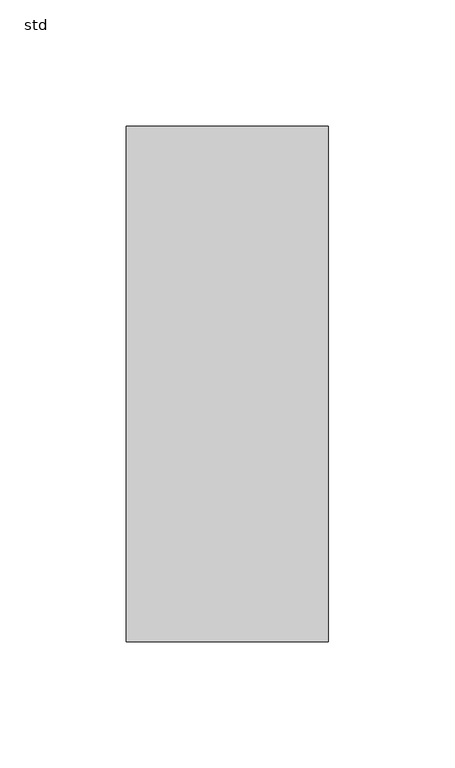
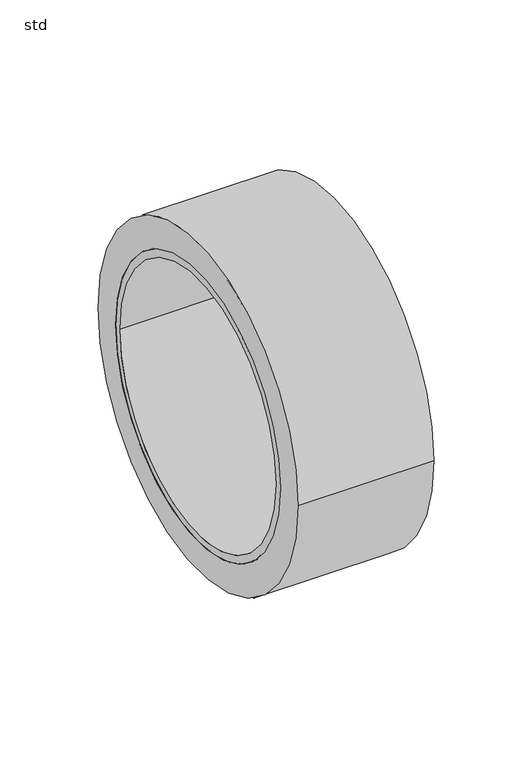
"""IFC4 building model written with IfcOpenShell, lengths in millimetres: pipe fitting geometry, PIF_ST_UN_GM-X compound pipe multi-reducer (multiport)_ACO : std."""

from ifc_helpers import new_model, si_unit, point, frame, origin, origin_2d, place, context, project, spatial, polyline, circle_curve, trimmed, segment, composite_curve, outline, extrude, source, transform, mapped, element, save
from ifc_brep_helpers import plane_surface, cylinder_surface, revolved_surface, advanced_brep


def std_e7416d80(model_context):
    return source(origin(), model_context, "Body", "SolidModel", [
        extrude(outline(composite_curve([segment(trimmed(circle_curve(origin_2d(), 102.0), [point((-102.0, 0.0))], [point((102.0, 0.0))], False, "CARTESIAN"), True, "CONTINUOUS"), segment(trimmed(circle_curve(origin_2d(), 102.0), [point((102.0, 0.0))], [point((-102.0, 0.0))], False, "CARTESIAN"), True, "CONTINUOUS")], self_intersect=False), holes=[composite_curve([segment(trimmed(circle_curve(origin_2d(), 84.0), [point((-84.0, 0.0))], [point((84.0, 0.0))], True, "CARTESIAN"), True, "CONTINUOUS"), segment(trimmed(circle_curve(origin_2d(), 84.0), [point((84.0, 0.0))], [point((-84.0, 0.0))], True, "CARTESIAN"), True, "CONTINUOUS")], self_intersect=False)]), frame((390.0, 0.0, 0.0), z_axis=(1.0, 0.0, 0.0), x_axis=(0.0, 1.0, 0.0)), (0.0, 0.0, 1.0), 80.0),
        advanced_brep(
        [(470.0, -84.0, 0.0), (470.0, 84.0, 0.0), (470.0, 79.5, 0.0), (470.0, -79.5, 0.0), (390.0, -84.0, 0.0), (390.0, 84.0, 0.0), (390.0, -79.5, 0.0), (390.0, 79.5, 0.0), (435.0, -84.0, 0.0), (435.0, 84.0, 0.0), (399.5, 84.0, 0.0), (399.5, -84.0, 0.0), (435.0, -90.5, 0.0), (435.0, 90.5, 0.0), (399.5, -90.5, 0.0), (399.5, 90.5, 0.0)],
        [
            (0, 1, circle_curve(frame((470.0, 0.0, 0.0), z_axis=(1.0, 0.0, 0.0), x_axis=(0.0, 1.0, 0.0)), 84.0)),
            (1, 0, circle_curve(frame((470.0, 0.0, 0.0), z_axis=(1.0, 0.0, 0.0), x_axis=(0.0, 1.0, 0.0)), 84.0)),
            (2, 3, circle_curve(frame((470.0, 0.0, 0.0), z_axis=(-1.0, 0.0, 0.0), x_axis=(0.0, 1.0, 0.0)), 79.5)),
            (3, 2, circle_curve(frame((470.0, 0.0, 0.0), z_axis=(-1.0, 0.0, 0.0), x_axis=(0.0, 1.0, 0.0)), 79.5)),
            (4, 5, circle_curve(frame((390.0, 0.0, 0.0), z_axis=(-1.0, 0.0, 0.0), x_axis=(0.0, 1.0, 0.0)), 84.0)),
            (5, 4, circle_curve(frame((390.0, 0.0, 0.0), z_axis=(-1.0, 0.0, 0.0), x_axis=(0.0, 1.0, 0.0)), 84.0)),
            (6, 7, circle_curve(frame((390.0, 0.0, 0.0), z_axis=(1.0, 0.0, 0.0), x_axis=(0.0, 1.0, 0.0)), 79.5)),
            (7, 6, circle_curve(frame((390.0, 0.0, 0.0), z_axis=(1.0, 0.0, 0.0), x_axis=(0.0, 1.0, 0.0)), 79.5)),
            (0, 8),
            (8, 9, circle_curve(frame((435.0, 0.0, 0.0), z_axis=(1.0, 0.0, 0.0), x_axis=(0.0, 1.0, 0.0)), 84.0)),
            (9, 1),
            (5, 10),
            (10, 11, circle_curve(frame((399.5, 0.0, 0.0), z_axis=(-1.0, 0.0, 0.0), x_axis=(0.0, 1.0, 0.0)), 84.0)),
            (11, 4),
            (9, 8, circle_curve(frame((435.0, 0.0, 0.0), z_axis=(1.0, 0.0, 0.0), x_axis=(0.0, 1.0, 0.0)), 84.0)),
            (11, 10, circle_curve(frame((399.5, 0.0, 0.0), z_axis=(-1.0, 0.0, 0.0), x_axis=(0.0, 1.0, 0.0)), 84.0)),
            (2, 7),
            (6, 3),
            (12, 13, circle_curve(frame((435.0, 0.0, 0.0), z_axis=(1.0, 0.0, 0.0), x_axis=(0.0, 1.0, 0.0)), 90.5)),
            (13, 12, circle_curve(frame((435.0, 0.0, 0.0), z_axis=(1.0, 0.0, 0.0), x_axis=(0.0, 1.0, 0.0)), 90.5)),
            (14, 15, circle_curve(frame((399.5, 0.0, 0.0), z_axis=(-1.0, 0.0, 0.0), x_axis=(0.0, 1.0, 0.0)), 90.5)),
            (15, 14, circle_curve(frame((399.5, 0.0, 0.0), z_axis=(-1.0, 0.0, 0.0), x_axis=(0.0, 1.0, 0.0)), 90.5)),
            (12, 14),
            (15, 13),
        ],
        [
            plane_surface(frame((470.0, 84.0, 0.0), z_axis=(1.0, 0.0, 0.0), x_axis=(0.0, 0.0, 1.0))),
            plane_surface(frame((390.0, 84.0, 0.0), z_axis=(-1.0, 0.0, 0.0), x_axis=(0.0, 0.0, -1.0))),
            cylinder_surface(frame((390.0, 0.0, 0.0), z_axis=(1.0, 0.0, 0.0), x_axis=(0.0, 1.0, 0.0)), 84.0),
            revolved_surface(polyline([(470.0, 79.5, 0.0), (390.0, 79.5, 0.0)]), (390.0, 0.0, 0.0), (1.0, 0.0, 0.0)),
            plane_surface(frame((435.0, 90.5, 0.0), z_axis=(1.0, 0.0, 0.0), x_axis=(0.0, 0.0, 1.0))),
            plane_surface(frame((399.5, 90.5, 0.0), z_axis=(-1.0, 0.0, 0.0), x_axis=(0.0, 0.0, -1.0))),
            cylinder_surface(frame((399.5, 0.0, 0.0), z_axis=(1.0, 0.0, 0.0), x_axis=(0.0, 1.0, 0.0)), 90.5),
        ],
        [
            (0, [[1, 2], [3, 4]]),
            (1, [[5, 6], [7, 8]]),
            (2, [[-1, 9, 10, 11]]),
            (2, [[-6, 12, 13, 14]]),
            (2, [[-2, -11, 15, -9]]),
            (2, [[-5, -14, 16, -12]]),
            (3, [[17, -7, 18, -3]]),
            (3, [[-17, -4, -18, -8]]),
            (4, [[19, 20], [-10, -15]]),
            (5, [[21, 22], [-13, -16]]),
            (6, [[-19, 23, -22, 24]]),
            (6, [[-20, -24, -21, -23]]),
        ],
    ),
    ])


if __name__ == "__main__":
    model = new_model("IFC4")
    model_context = context("Model", 3, world=origin())
    ifc_project = project(units=[si_unit("LENGTHUNIT", "METRE", prefix="MILLI")], contexts=[model_context])
    site = spatial("IfcSite", under=ifc_project)
    building = spatial("IfcBuilding", under=site)
    placement = place(None, origin())
    std_shape = std_e7416d80(model_context)
    element("IfcPipeFitting", 1, ObjectType="PIF_ST_UN_GM-X compound pipe multi-reducer (multiport)_ACO : std", at=placement, inside=building, context=model_context, shape_type="MappedRepresentation", body=[
        mapped(std_shape, transform((0.0, 0.0, 0.0), x_axis=(1.0, 0.0, 0.0), y_axis=(0.0, 1.0, 0.0), z_axis=(0.0, 0.0, 1.0))),
    ])
    save(model, "model.ifc")
